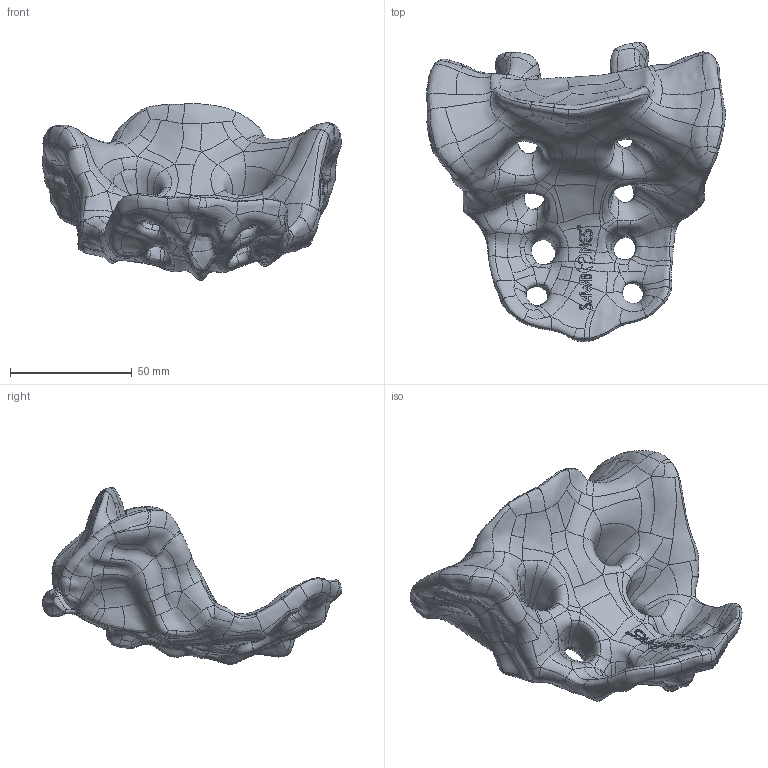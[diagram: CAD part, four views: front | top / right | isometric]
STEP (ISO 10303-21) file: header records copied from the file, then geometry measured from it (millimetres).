
FILE_DESCRIPTION (( 'STEP AP203' ), '1' );
FILE_NAME ('3405-2.STEP', '2025-06-10T15:53:15', ( '' ), ( '' ), 'SwSTEP 2.0', 'SolidWorks 2024', '' );
FILE_SCHEMA (( 'CONFIG_CONTROL_DESIGN' ));
Products named in the file (1): 3405-2
Bounding box: 122.82 x 122.85 x 72.53 mm (x, y, z)
Volume: 207643.4 mm3; surface area: 37238.6 mm2
Topology: 1 solids, 1 shells, 856 faces, 2170 edges, 1306 vertices
Faces by surface type: bspline 854, plane 2
Entity records: 357201 total; most frequent: CARTESIAN_POINT 343689, ORIENTED_EDGE 4340, B_SPLINE_CURVE_WITH_KNOTS 2170, EDGE_CURVE 2170, VERTEX_POINT 1306, EDGE_LOOP 862, ADVANCED_FACE 856, FACE_OUTER_BOUND 856
